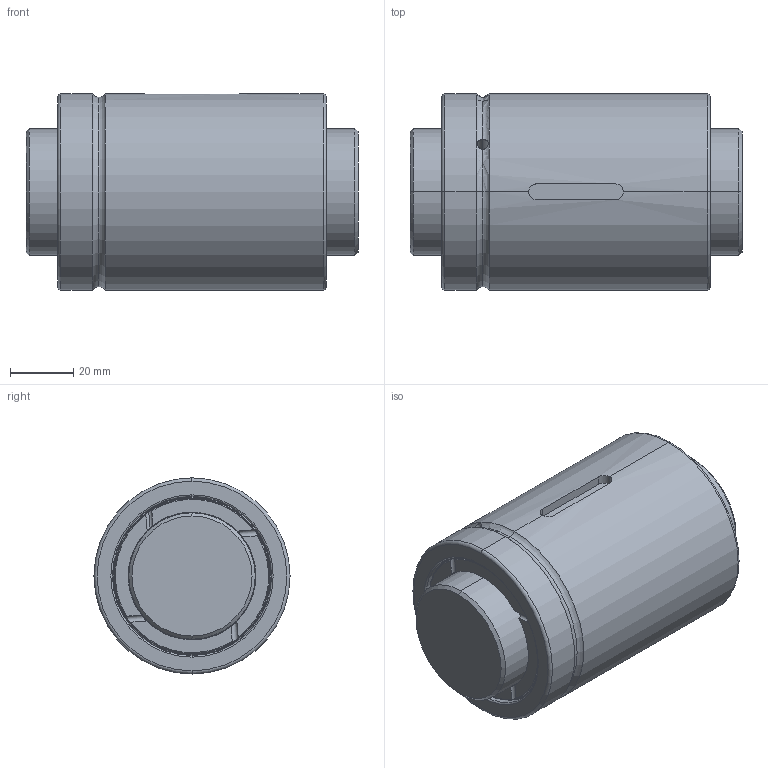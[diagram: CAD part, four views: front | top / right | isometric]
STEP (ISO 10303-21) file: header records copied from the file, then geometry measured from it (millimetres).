
FILE_DESCRIPTION (( 'STEP AP203' ), '1' );
FILE_NAME ('SCIR04010T4-C.STEP', '2020-06-17T07:40:28', ( '' ), ( '' ), 'SwSTEP 2.0', 'SolidWorks 2013', '' );
FILE_SCHEMA (( 'CONFIG_CONTROL_DESIGN' ));
Length unit declared in the file: millimetre
Products named in the file (1): SCIR04010T4-C
Bounding box: 105 x 62 x 62 mm (x, y, z)
Volume: 262736.6 mm3; surface area: 52219 mm2
Topology: 2 solids, 2 shells, 100 faces, 234 edges, 143 vertices
Faces by surface type: cylinder 45, torus 30, plane 21, cone 4
Entity records: 3371 total; most frequent: CARTESIAN_POINT 992, DIRECTION 514, ORIENTED_EDGE 468, EDGE_CURVE 234, AXIS2_PLACEMENT_3D 229, VERTEX_POINT 143, CIRCLE 128, EDGE_LOOP 109
